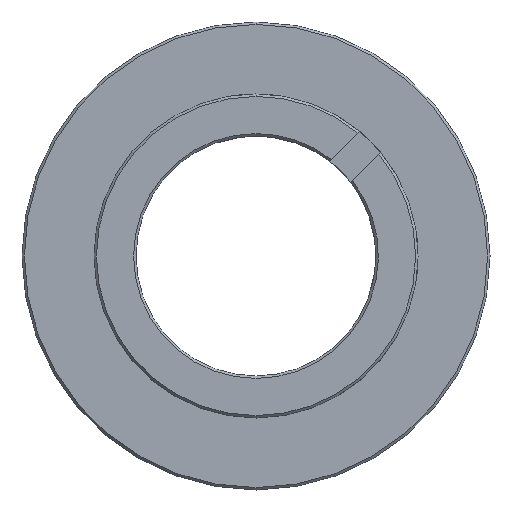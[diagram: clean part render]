
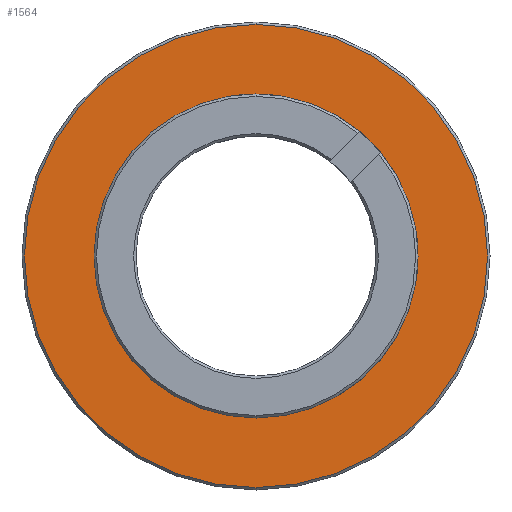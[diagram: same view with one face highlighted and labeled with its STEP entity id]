
A CAD part, front view. The second image highlights one B-rep face of the part: STEP entity #1564.
In plain terms, the highlighted planar face has unit normal (0, -1, 0).
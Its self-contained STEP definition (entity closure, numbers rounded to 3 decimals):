
#15 = CARTESIAN_POINT ( 'NONE',  ( 0., 0., 0. ) ) ;
#16 = EDGE_CURVE ( 'NONE', #1693, #2071, #1779, .T. ) ;
#72 = DIRECTION ( 'NONE',  ( 0., -1., 0. ) ) ;
#109 = EDGE_LOOP ( 'NONE', ( #4155, #4281 ) ) ;
#404 = DIRECTION ( 'NONE',  ( 0., 0., 1. ) ) ;
#637 = CARTESIAN_POINT ( 'NONE',  ( 0., 0., 13.5 ) ) ;
#764 = EDGE_LOOP ( 'NONE', ( #3860, #1833 ) ) ;
#799 = CIRCLE ( 'NONE', #4379, 13.5 ) ;
#842 = CARTESIAN_POINT ( 'NONE',  ( 0., 0., 0. ) ) ;
#883 = CIRCLE ( 'NONE', #2632, 19.3 ) ;
#887 = CARTESIAN_POINT ( 'NONE',  ( 0., 0., -13.5 ) ) ;
#1065 = AXIS2_PLACEMENT_3D ( 'NONE', #3340, #1602, #3433 ) ;
#1289 = CARTESIAN_POINT ( 'NONE',  ( 0., 0., -19.3 ) ) ;
#1564 = ADVANCED_FACE ( 'NONE', ( #2641, #1582 ), #3988, .F. ) ;
#1582 = FACE_BOUND ( 'NONE', #764, .T. ) ;
#1602 = DIRECTION ( 'NONE',  ( 0., -1., 0. ) ) ;
#1689 = DIRECTION ( 'NONE',  ( 0., -1., 0. ) ) ;
#1693 = VERTEX_POINT ( 'NONE', #1289 ) ;
#1779 = CIRCLE ( 'NONE', #1065, 19.3 ) ;
#1833 = ORIENTED_EDGE ( 'NONE', *, *, #4220, .F. ) ;
#1930 = CARTESIAN_POINT ( 'NONE',  ( 0., 0., 19.3 ) ) ;
#2071 = VERTEX_POINT ( 'NONE', #1930 ) ;
#2118 = CIRCLE ( 'NONE', #4181, 13.5 ) ;
#2177 = CARTESIAN_POINT ( 'NONE',  ( 0., 0., 0. ) ) ;
#2226 = DIRECTION ( 'NONE',  ( 0., 1., 0. ) ) ;
#2259 = CARTESIAN_POINT ( 'NONE',  ( 0., 0., 0. ) ) ;
#2632 = AXIS2_PLACEMENT_3D ( 'NONE', #2177, #72, #404 ) ;
#2641 = FACE_OUTER_BOUND ( 'NONE', #109, .T. ) ;
#3028 = DIRECTION ( 'NONE',  ( 0., -1., 0. ) ) ;
#3048 = DIRECTION ( 'NONE',  ( 0., 0., 1. ) ) ;
#3074 = DIRECTION ( 'NONE',  ( 0., 0., 1. ) ) ;
#3282 = AXIS2_PLACEMENT_3D ( 'NONE', #842, #2226, #3618 ) ;
#3340 = CARTESIAN_POINT ( 'NONE',  ( 0., 0., 0. ) ) ;
#3351 = EDGE_CURVE ( 'NONE', #2071, #1693, #883, .T. ) ;
#3433 = DIRECTION ( 'NONE',  ( 0., 0., 1. ) ) ;
#3618 = DIRECTION ( 'NONE',  ( 0., 0., 1. ) ) ;
#3721 = EDGE_CURVE ( 'NONE', #4214, #4364, #799, .T. ) ;
#3860 = ORIENTED_EDGE ( 'NONE', *, *, #3721, .F. ) ;
#3988 = PLANE ( 'NONE',  #3282 ) ;
#4155 = ORIENTED_EDGE ( 'NONE', *, *, #3351, .T. ) ;
#4181 = AXIS2_PLACEMENT_3D ( 'NONE', #2259, #3028, #3048 ) ;
#4214 = VERTEX_POINT ( 'NONE', #637 ) ;
#4220 = EDGE_CURVE ( 'NONE', #4364, #4214, #2118, .T. ) ;
#4281 = ORIENTED_EDGE ( 'NONE', *, *, #16, .T. ) ;
#4364 = VERTEX_POINT ( 'NONE', #887 ) ;
#4379 = AXIS2_PLACEMENT_3D ( 'NONE', #15, #1689, #3074 ) ;
